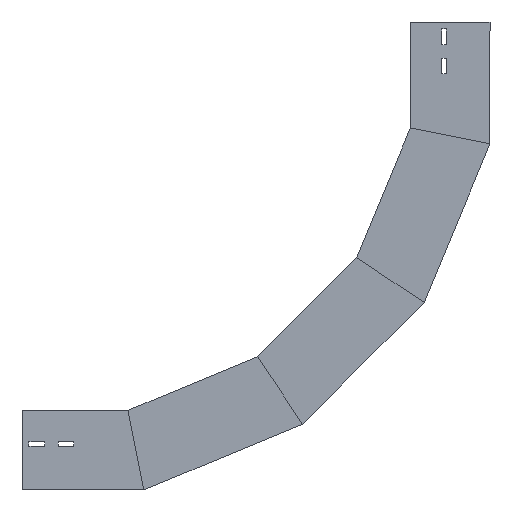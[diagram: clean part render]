
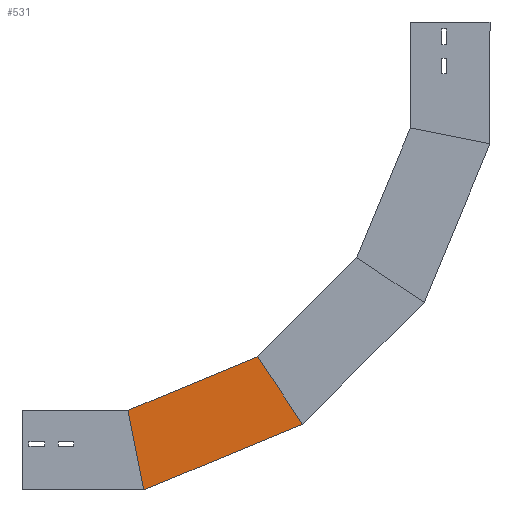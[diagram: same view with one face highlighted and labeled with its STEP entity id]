
A CAD part, left-side view. The second image highlights one B-rep face of the part: STEP entity #531.
In plain terms, the highlighted planar face has unit normal (-1, 0, 0) as drawn and (1, 0, 0) by its records, which use the part's own axes.
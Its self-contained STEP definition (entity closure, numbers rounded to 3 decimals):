
#33 = CARTESIAN_POINT ( 'NONE',  ( 0., 188.403, -332.969 ) ) ;
#182 = DIRECTION ( 'NONE',  ( 0., 0.383, -0.924 ) ) ;
#200 = LINE ( 'NONE', #222, #1767 ) ;
#221 = EDGE_LOOP ( 'NONE', ( #1080, #1476, #1576, #1302 ) ) ;
#222 = CARTESIAN_POINT ( 'NONE',  ( 0., 132.464, -370.346 ) ) ;
#240 = CARTESIAN_POINT ( 'NONE',  ( 0., 0., -172.1 ) ) ;
#243 = VERTEX_POINT ( 'NONE', #33 ) ;
#250 = PLANE ( 'NONE',  #1035 ) ;
#290 = DIRECTION ( 'NONE',  ( -1., 0., 0. ) ) ;
#312 = LINE ( 'NONE', #1194, #1040 ) ;
#322 = LINE ( 'NONE', #905, #935 ) ;
#489 = EDGE_CURVE ( 'NONE', #243, #524, #200, .T. ) ;
#516 = VECTOR ( 'NONE', #1730, 1000. ) ;
#524 = VERTEX_POINT ( 'NONE', #653 ) ;
#531 = ADVANCED_FACE ( 'NONE', ( #992 ), #250, .F. ) ;
#653 = CARTESIAN_POINT ( 'NONE',  ( 0., 93.03, -396.695 ) ) ;
#745 = EDGE_CURVE ( 'NONE', #1747, #524, #322, .T. ) ;
#905 = CARTESIAN_POINT ( 'NONE',  ( 0., 0., -172.1 ) ) ;
#935 = VECTOR ( 'NONE', #182, 1000. ) ;
#992 = FACE_OUTER_BOUND ( 'NONE', #221, .T. ) ;
#1035 = AXIS2_PLACEMENT_3D ( 'NONE', #1418, #290, #1429 ) ;
#1040 = VECTOR ( 'NONE', #1043, 1000. ) ;
#1043 = DIRECTION ( 'NONE',  ( 0., 0.383, -0.924 ) ) ;
#1050 = EDGE_CURVE ( 'NONE', #1284, #1747, #1292, .T. ) ;
#1080 = ORIENTED_EDGE ( 'NONE', *, *, #1587, .F. ) ;
#1136 = CARTESIAN_POINT ( 'NONE',  ( 0., 32.93, -165.55 ) ) ;
#1194 = CARTESIAN_POINT ( 'NONE',  ( 0., 103.936, -129.048 ) ) ;
#1284 = VERTEX_POINT ( 'NONE', #1539 ) ;
#1292 = LINE ( 'NONE', #1136, #516 ) ;
#1302 = ORIENTED_EDGE ( 'NONE', *, *, #489, .F. ) ;
#1409 = DIRECTION ( 'NONE',  ( 0., -0.831, -0.556 ) ) ;
#1418 = CARTESIAN_POINT ( 'NONE',  ( 0., 0., -172.1 ) ) ;
#1429 = DIRECTION ( 'NONE',  ( 0., 0., 1. ) ) ;
#1476 = ORIENTED_EDGE ( 'NONE', *, *, #1050, .T. ) ;
#1539 = CARTESIAN_POINT ( 'NONE',  ( 0., 112.5, -149.722 ) ) ;
#1576 = ORIENTED_EDGE ( 'NONE', *, *, #745, .T. ) ;
#1587 = EDGE_CURVE ( 'NONE', #1284, #243, #312, .T. ) ;
#1730 = DIRECTION ( 'NONE',  ( 0., -0.981, -0.195 ) ) ;
#1747 = VERTEX_POINT ( 'NONE', #240 ) ;
#1767 = VECTOR ( 'NONE', #1409, 1000. ) ;
